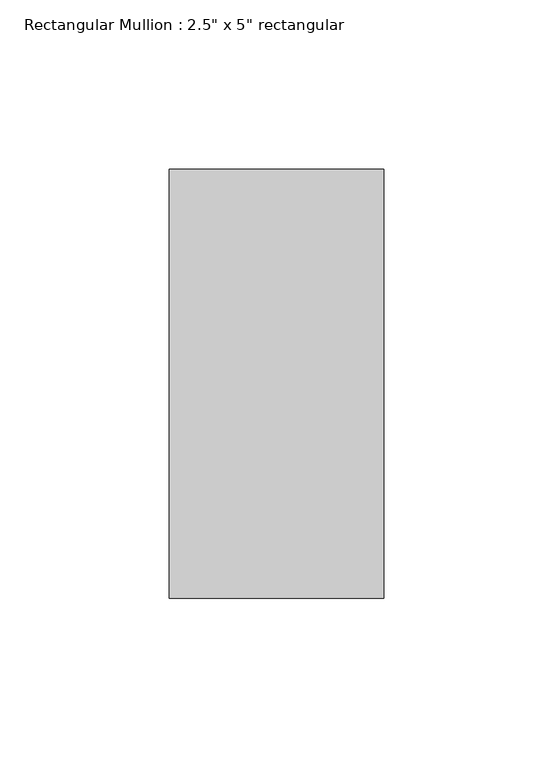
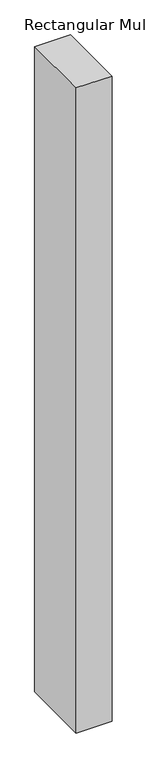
"""IFC4 building model written with IfcOpenShell, lengths in millimetres: member geometry."""

from ifc_helpers import new_model, si_unit, frame, origin, place, context, project, spatial, polyline, outline, extrude, source, transform, mapped, element, save


def member_bad99366(model_context):
    return source(origin(), model_context, "Body", "SweptSolid", [
        extrude(outline(polyline([(0.0, 63.5), (0.0, -63.5), (-63.5, -63.5), (-63.5, 63.5), (0.0, 63.5)])), frame((0.0, 0.0, -1206.0), z_axis=(0.0, 0.0, 1.0), x_axis=(1.0, 0.0, 0.0)), (0.0, 0.0, 1.0), 1206.0),
    ])


if __name__ == "__main__":
    model = new_model("IFC4")
    model_context = context("Model", 3, world=origin())
    ifc_project = project(units=[si_unit("LENGTHUNIT", "METRE", prefix="MILLI")], contexts=[model_context])
    site = spatial("IfcSite", under=ifc_project)
    building = spatial("IfcBuilding", under=site)
    placement = place(None, origin())
    member_shape = member_bad99366(model_context)
    element("IfcMember", 1, ObjectType="Rectangular Mullion : 2.5\" x 5\" rectangular", at=placement, inside=building, context=model_context, shape_type="MappedRepresentation", body=[
        mapped(member_shape, transform((0.0, 0.0, 0.0), x_axis=(1.0, 0.0, 0.0), y_axis=(0.0, 1.0, 0.0), z_axis=(0.0, 0.0, 1.0))),
    ])
    save(model, "model.ifc")
